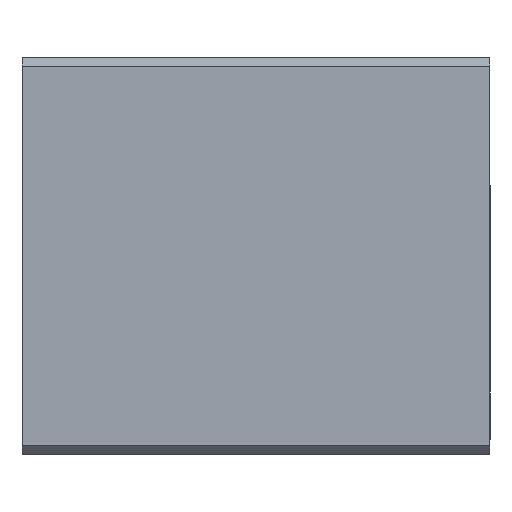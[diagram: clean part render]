
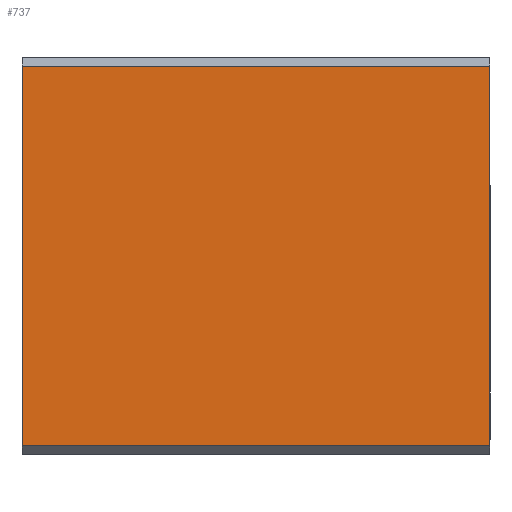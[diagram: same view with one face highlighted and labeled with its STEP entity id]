
A CAD part, front view. The second image highlights one B-rep face of the part: STEP entity #737.
In plain terms, the highlighted planar face has unit normal (0, -1, 0).
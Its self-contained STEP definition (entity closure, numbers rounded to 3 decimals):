
#737 = ADVANCED_FACE ( 'NONE', ( #25800 ), #13777, .F. ) ;
#2089 = EDGE_CURVE ( 'NONE', #22295, #5649, #5874, .T. ) ;
#3762 = ORIENTED_EDGE ( 'NONE', *, *, #23323, .T. ) ;
#4071 = CARTESIAN_POINT ( 'NONE',  ( 53., -22.5, -21.5 ) ) ;
#4852 = EDGE_LOOP ( 'NONE', ( #23854, #21116, #20344, #3762 ) ) ;
#5342 = VERTEX_POINT ( 'NONE', #24390 ) ;
#5649 = VERTEX_POINT ( 'NONE', #19406 ) ;
#5874 = LINE ( 'NONE', #4071, #15827 ) ;
#8285 = EDGE_CURVE ( 'NONE', #5342, #5649, #14030, .T. ) ;
#9761 = LINE ( 'NONE', #12777, #20366 ) ;
#10761 = CARTESIAN_POINT ( 'NONE',  ( 0., -22.5, 21.5 ) ) ;
#11840 = DIRECTION ( 'NONE',  ( 0., 1., 0. ) ) ;
#11858 = DIRECTION ( 'NONE',  ( 0., 0., -1. ) ) ;
#12089 = DIRECTION ( 'NONE',  ( 1., 0., 0. ) ) ;
#12777 = CARTESIAN_POINT ( 'NONE',  ( 53., -22.5, 21.5 ) ) ;
#13777 = PLANE ( 'NONE',  #23476 ) ;
#14030 = LINE ( 'NONE', #14275, #18713 ) ;
#14275 = CARTESIAN_POINT ( 'NONE',  ( 53., -22.5, 22.5 ) ) ;
#14766 = DIRECTION ( 'NONE',  ( -1., 0., 0. ) ) ;
#14865 = VECTOR ( 'NONE', #11858, 1000. ) ;
#15827 = VECTOR ( 'NONE', #12089, 1000. ) ;
#16676 = EDGE_CURVE ( 'NONE', #18112, #22295, #20164, .T. ) ;
#18112 = VERTEX_POINT ( 'NONE', #10761 ) ;
#18270 = DIRECTION ( 'NONE',  ( 0., 0., -1. ) ) ;
#18713 = VECTOR ( 'NONE', #18270, 1000. ) ;
#19406 = CARTESIAN_POINT ( 'NONE',  ( 53., -22.5, -21.5 ) ) ;
#19796 = CARTESIAN_POINT ( 'NONE',  ( 0., -22.5, 22.5 ) ) ;
#20164 = LINE ( 'NONE', #19796, #14865 ) ;
#20344 = ORIENTED_EDGE ( 'NONE', *, *, #8285, .F. ) ;
#20366 = VECTOR ( 'NONE', #14766, 1000. ) ;
#21116 = ORIENTED_EDGE ( 'NONE', *, *, #2089, .T. ) ;
#22295 = VERTEX_POINT ( 'NONE', #25086 ) ;
#23323 = EDGE_CURVE ( 'NONE', #5342, #18112, #9761, .T. ) ;
#23476 = AXIS2_PLACEMENT_3D ( 'NONE', #23788, #11840, #25765 ) ;
#23788 = CARTESIAN_POINT ( 'NONE',  ( 53., -22.5, 22.5 ) ) ;
#23854 = ORIENTED_EDGE ( 'NONE', *, *, #16676, .T. ) ;
#24390 = CARTESIAN_POINT ( 'NONE',  ( 53., -22.5, 21.5 ) ) ;
#25086 = CARTESIAN_POINT ( 'NONE',  ( 0., -22.5, -21.5 ) ) ;
#25765 = DIRECTION ( 'NONE',  ( 0., 0., 1. ) ) ;
#25800 = FACE_OUTER_BOUND ( 'NONE', #4852, .T. ) ;
